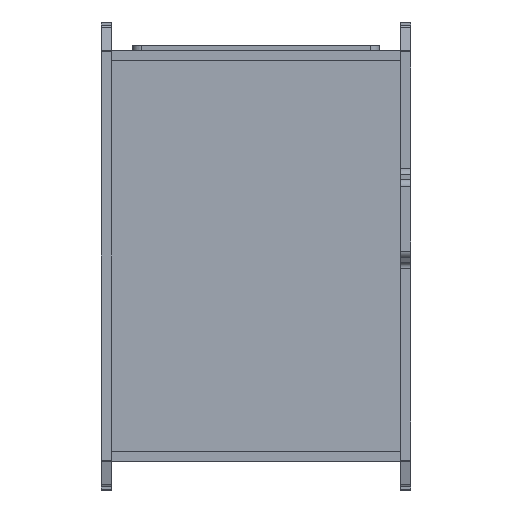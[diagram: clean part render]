
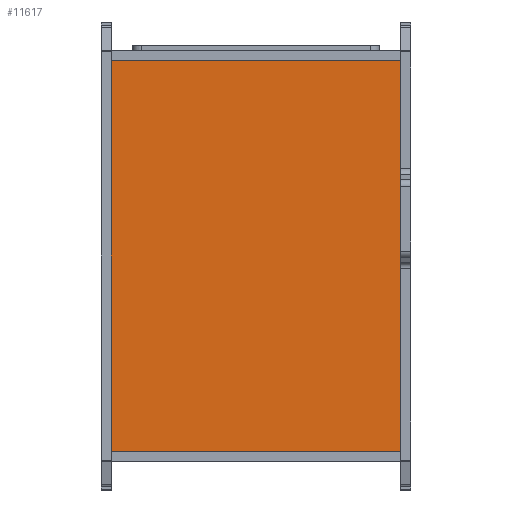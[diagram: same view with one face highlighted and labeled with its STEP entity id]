
A CAD part, front view. The second image highlights one B-rep face of the part: STEP entity #11617.
In plain terms, the highlighted planar face has unit normal (0, -1, 0).
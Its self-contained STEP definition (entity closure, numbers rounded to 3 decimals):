
#11617=ADVANCED_FACE('',(#15247),#64026,.T.);
#15247=FACE_OUTER_BOUND('',#19376,.T.);
#19376=EDGE_LOOP('',(#35120,#35121,#35122,#35123));
#35120=ORIENTED_EDGE('',*,*,#48480,.F.);
#35121=ORIENTED_EDGE('',*,*,#48477,.F.);
#35122=ORIENTED_EDGE('',*,*,#48474,.F.);
#35123=ORIENTED_EDGE('',*,*,#48470,.F.);
#48470=EDGE_CURVE('',#60668,#60669,#55260,.T.);
#48474=EDGE_CURVE('',#60669,#60672,#55264,.T.);
#48477=EDGE_CURVE('',#60672,#60674,#55267,.T.);
#48480=EDGE_CURVE('',#60674,#60668,#55270,.T.);
#55260=B_SPLINE_CURVE_WITH_KNOTS('',1,(#190929,#190930),.UNSPECIFIED.,.F.,
 .F.,(2,2),(-2614.,-1869.),.UNSPECIFIED.);
#55264=B_SPLINE_CURVE_WITH_KNOTS('',1,(#190937,#190938),.UNSPECIFIED.,.F.,
 .F.,(2,2),(-1869.,-1313.),.UNSPECIFIED.);
#55267=B_SPLINE_CURVE_WITH_KNOTS('',1,(#190943,#190944),.UNSPECIFIED.,.F.,
 .F.,(2,2),(-1313.,-568.),.UNSPECIFIED.);
#55270=B_SPLINE_CURVE_WITH_KNOTS('',1,(#190949,#190950),.UNSPECIFIED.,.F.,
 .F.,(2,2),(-568.,-12.),.UNSPECIFIED.);
#60668=VERTEX_POINT('',#190921);
#60669=VERTEX_POINT('',#190922);
#60672=VERTEX_POINT('',#190925);
#60674=VERTEX_POINT('',#190927);
#64026=PLANE('',#65557);
#65557=AXIS2_PLACEMENT_3D('',#190919,#67072,$);
#67072=DIRECTION('',(0.,-1.,0.));
#190919=CARTESIAN_POINT('',(278.,-325.,-146.727));
#190921=CARTESIAN_POINT('',(-278.,-325.,-146.727));
#190922=CARTESIAN_POINT('',(-278.,-325.,598.273));
#190925=CARTESIAN_POINT('',(278.,-325.,598.273));
#190927=CARTESIAN_POINT('',(278.,-325.,-146.727));
#190929=CARTESIAN_POINT('',(-278.,-325.,-146.727));
#190930=CARTESIAN_POINT('',(-278.,-325.,598.273));
#190937=CARTESIAN_POINT('',(-278.,-325.,598.273));
#190938=CARTESIAN_POINT('',(278.,-325.,598.273));
#190943=CARTESIAN_POINT('',(278.,-325.,598.273));
#190944=CARTESIAN_POINT('',(278.,-325.,-146.727));
#190949=CARTESIAN_POINT('',(278.,-325.,-146.727));
#190950=CARTESIAN_POINT('',(-278.,-325.,-146.727));
